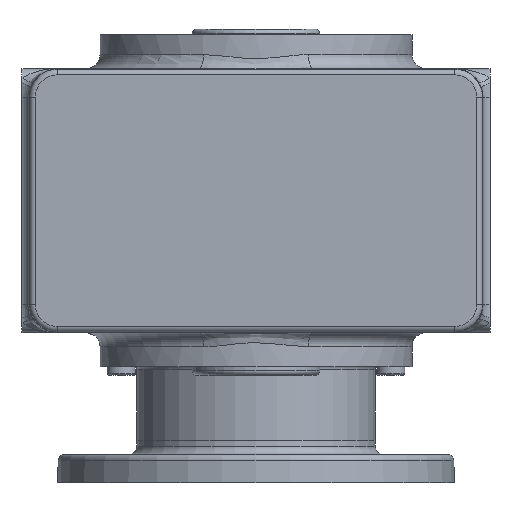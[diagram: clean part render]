
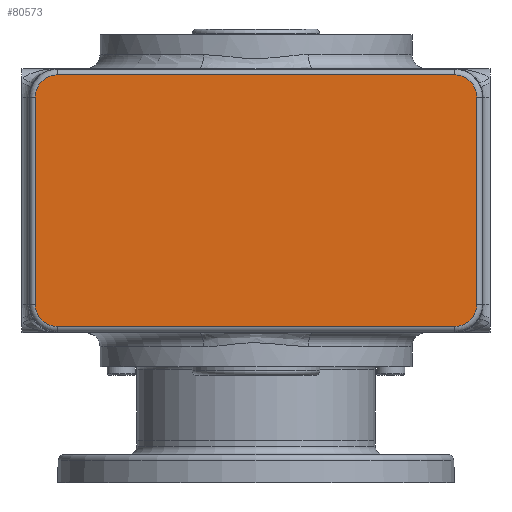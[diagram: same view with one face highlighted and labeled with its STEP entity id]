
A CAD part, front view. The second image highlights one B-rep face of the part: STEP entity #80573.
In plain terms, the highlighted planar face has unit normal (0, -1, 0).
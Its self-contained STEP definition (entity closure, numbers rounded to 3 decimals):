
#7274 = EDGE_CURVE ( 'NONE', #18882, #11002, #44122, .T. ) ;
#7906 = ORIENTED_EDGE ( 'NONE', *, *, #19319, .T. ) ;
#11002 = VERTEX_POINT ( 'NONE', #44214 ) ;
#11967 = ORIENTED_EDGE ( 'NONE', *, *, #12168, .T. ) ;
#12124 = ORIENTED_EDGE ( 'NONE', *, *, #12435, .T. ) ;
#12168 = EDGE_CURVE ( 'NONE', #80733, #19892, #44205, .T. ) ;
#12435 = EDGE_CURVE ( 'NONE', #11002, #18152, #44340, .T. ) ;
#16255 = EDGE_CURVE ( 'NONE', #80745, #19321, #44648, .T. ) ;
#16686 = ORIENTED_EDGE ( 'NONE', *, *, #16255, .T. ) ;
#18152 = VERTEX_POINT ( 'NONE', #44687 ) ;
#18629 = ORIENTED_EDGE ( 'NONE', *, *, #18826, .T. ) ;
#18696 = ORIENTED_EDGE ( 'NONE', *, *, #18717, .T. ) ;
#18717 = EDGE_CURVE ( 'NONE', #80752, #18882, #44666, .T. ) ;
#18826 = EDGE_CURVE ( 'NONE', #18152, #80745, #44813, .T. ) ;
#18882 = VERTEX_POINT ( 'NONE', #44791 ) ;
#19213 = EDGE_CURVE ( 'NONE', #19321, #80733, #44787, .T. ) ;
#19319 = EDGE_CURVE ( 'NONE', #19892, #80752, #44751, .T. ) ;
#19321 = VERTEX_POINT ( 'NONE', #44744 ) ;
#19892 = VERTEX_POINT ( 'NONE', #44891 ) ;
#36739 = CARTESIAN_POINT ( 'NONE',  ( -70., -74.5, 90.86 ) ) ;
#36767 = CARTESIAN_POINT ( 'NONE',  ( 70., -74.5, 2.14 ) ) ;
#44108 = DIRECTION ( 'NONE',  ( 0., 0., -1. ) ) ;
#44110 = VECTOR ( 'NONE', #44108, 1000. ) ;
#44112 = CARTESIAN_POINT ( 'NONE',  ( -77.86, -74.5, 10. ) ) ;
#44122 = LINE ( 'NONE', #44112, #44110 ) ;
#44198 = DIRECTION ( 'NONE',  ( 0., 0., -1. ) ) ;
#44200 = DIRECTION ( 'NONE',  ( 0., -1., 0. ) ) ;
#44202 = CARTESIAN_POINT ( 'NONE',  ( 70., -74.5, 83. ) ) ;
#44203 = AXIS2_PLACEMENT_3D ( 'NONE', #44202, #44200, #44198 ) ;
#44205 = CIRCLE ( 'NONE', #44203, 7.86 ) ;
#44214 = CARTESIAN_POINT ( 'NONE',  ( -77.86, -74.5, 10. ) ) ;
#44333 = DIRECTION ( 'NONE',  ( 0., 0., -1. ) ) ;
#44335 = DIRECTION ( 'NONE',  ( 0., -1., 0. ) ) ;
#44337 = CARTESIAN_POINT ( 'NONE',  ( -70., -74.5, 10. ) ) ;
#44339 = AXIS2_PLACEMENT_3D ( 'NONE', #44337, #44335, #44333 ) ;
#44340 = CIRCLE ( 'NONE', #44339, 7.86 ) ;
#44641 = DIRECTION ( 'NONE',  ( 0., 0., -1. ) ) ;
#44643 = DIRECTION ( 'NONE',  ( 0., -1., 0. ) ) ;
#44644 = CARTESIAN_POINT ( 'NONE',  ( 70., -74.5, 10. ) ) ;
#44646 = AXIS2_PLACEMENT_3D ( 'NONE', #44644, #44643, #44641 ) ;
#44648 = CIRCLE ( 'NONE', #44646, 7.86 ) ;
#44662 = CARTESIAN_POINT ( 'NONE',  ( -70., -74.5, 83. ) ) ;
#44664 = AXIS2_PLACEMENT_3D ( 'NONE', #44662, #44820, #44818 ) ;
#44666 = CIRCLE ( 'NONE', #44664, 7.86 ) ;
#44687 = CARTESIAN_POINT ( 'NONE',  ( -70., -74.5, 2.14 ) ) ;
#44744 = CARTESIAN_POINT ( 'NONE',  ( 77.86, -74.5, 10. ) ) ;
#44746 = DIRECTION ( 'NONE',  ( -1., 0., 0. ) ) ;
#44748 = VECTOR ( 'NONE', #44746, 1000. ) ;
#44750 = CARTESIAN_POINT ( 'NONE',  ( -70., -74.5, 90.86 ) ) ;
#44751 = LINE ( 'NONE', #44750, #44748 ) ;
#44781 = DIRECTION ( 'NONE',  ( 0., 0., 1. ) ) ;
#44783 = VECTOR ( 'NONE', #44781, 1000. ) ;
#44785 = CARTESIAN_POINT ( 'NONE',  ( 77.86, -74.5, 83. ) ) ;
#44787 = LINE ( 'NONE', #44785, #44783 ) ;
#44791 = CARTESIAN_POINT ( 'NONE',  ( -77.86, -74.5, 83. ) ) ;
#44809 = DIRECTION ( 'NONE',  ( 1., 0., 0. ) ) ;
#44810 = VECTOR ( 'NONE', #44809, 1000. ) ;
#44812 = CARTESIAN_POINT ( 'NONE',  ( 70., -74.5, 2.14 ) ) ;
#44813 = LINE ( 'NONE', #44812, #44810 ) ;
#44818 = DIRECTION ( 'NONE',  ( 0., 0., -1. ) ) ;
#44820 = DIRECTION ( 'NONE',  ( 0., -1., 0. ) ) ;
#44891 = CARTESIAN_POINT ( 'NONE',  ( 70., -74.5, 90.86 ) ) ;
#49506 = DIRECTION ( 'NONE',  ( 0., 0., -1. ) ) ;
#49508 = DIRECTION ( 'NONE',  ( 0., -1., 0. ) ) ;
#49509 = CARTESIAN_POINT ( 'NONE',  ( 70., -74.5, 10. ) ) ;
#49510 = AXIS2_PLACEMENT_3D ( 'NONE', #49509, #49508, #49506 ) ;
#49511 = PLANE ( 'NONE',  #49510 ) ;
#49517 = FACE_OUTER_BOUND ( 'NONE', #80552, .T. ) ;
#49731 = CARTESIAN_POINT ( 'NONE',  ( 77.86, -74.5, 83. ) ) ;
#80552 = EDGE_LOOP ( 'NONE', ( #80569, #11967, #7906, #18696, #80729, #12124, #18629, #16686 ) ) ;
#80569 = ORIENTED_EDGE ( 'NONE', *, *, #19213, .T. ) ;
#80573 = ADVANCED_FACE ( 'NONE', ( #49517 ), #49511, .T. ) ;
#80729 = ORIENTED_EDGE ( 'NONE', *, *, #7274, .T. ) ;
#80733 = VERTEX_POINT ( 'NONE', #49731 ) ;
#80745 = VERTEX_POINT ( 'NONE', #36767 ) ;
#80752 = VERTEX_POINT ( 'NONE', #36739 ) ;
